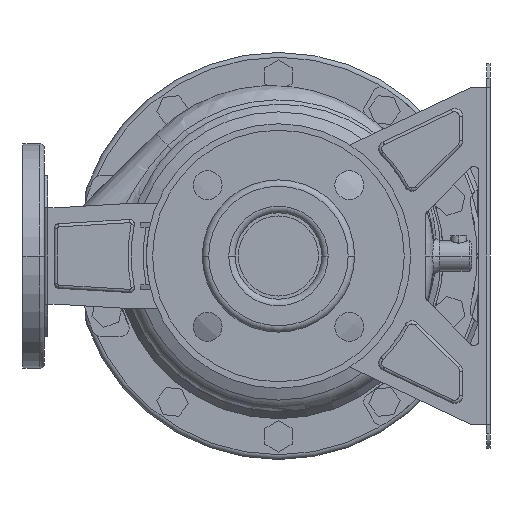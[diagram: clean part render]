
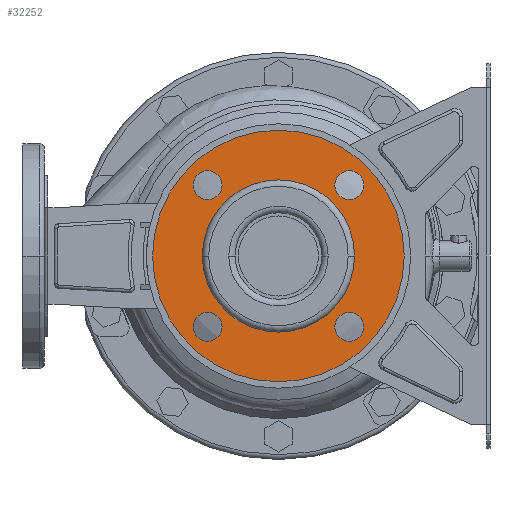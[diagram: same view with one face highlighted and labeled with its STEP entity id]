
A CAD part, front view. The second image highlights one B-rep face of the part: STEP entity #32252.
In plain terms, the highlighted planar face has unit normal (0, -1, 0) as drawn and (-1, 0, 0) by its records, which use the part's own axes.
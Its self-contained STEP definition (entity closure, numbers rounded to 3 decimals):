
#31585=CARTESIAN_POINT('',(12.,0.,0.));
#31586=DIRECTION('',(-1.,0.,0.));
#31587=DIRECTION('',(0.,1.,0.));
#31588=AXIS2_PLACEMENT_3D('',#31585,#31586,#31587);
#31593=CARTESIAN_POINT('',(12.,0.,0.));
#31594=DIRECTION('',(1.,0.,0.));
#31595=DIRECTION('',(0.,1.,0.));
#31596=AXIS2_PLACEMENT_3D('',#31593,#31594,#31595);
#31601=CARTESIAN_POINT('',(12.,-44.194,44.194));
#31602=DIRECTION('',(1.,0.,0.));
#31603=DIRECTION('',(0.,1.,0.));
#31604=AXIS2_PLACEMENT_3D('',#31601,#31602,#31603);
#31609=CARTESIAN_POINT('',(12.,-44.194,44.194));
#31610=DIRECTION('',(1.,0.,0.));
#31611=DIRECTION('',(0.,-1.,0.));
#31612=AXIS2_PLACEMENT_3D('',#31609,#31610,#31611);
#31617=CARTESIAN_POINT('',(12.,-44.194,-44.194));
#31618=DIRECTION('',(1.,0.,0.));
#31619=DIRECTION('',(0.,0.,1.));
#31620=AXIS2_PLACEMENT_3D('',#31617,#31618,#31619);
#31625=CARTESIAN_POINT('',(12.,-44.194,-44.194));
#31626=DIRECTION('',(1.,0.,0.));
#31627=DIRECTION('',(0.,0.,-1.));
#31628=AXIS2_PLACEMENT_3D('',#31625,#31626,#31627);
#31633=CARTESIAN_POINT('',(12.,44.194,-44.194));
#31634=DIRECTION('',(1.,0.,0.));
#31635=DIRECTION('',(0.,-1.,0.));
#31636=AXIS2_PLACEMENT_3D('',#31633,#31634,#31635);
#31641=CARTESIAN_POINT('',(12.,44.194,-44.194));
#31642=DIRECTION('',(1.,0.,0.));
#31643=DIRECTION('',(0.,1.,0.));
#31644=AXIS2_PLACEMENT_3D('',#31641,#31642,#31643);
#31649=CARTESIAN_POINT('',(12.,44.194,44.194));
#31650=DIRECTION('',(1.,0.,0.));
#31651=DIRECTION('',(0.,0.,-1.));
#31652=AXIS2_PLACEMENT_3D('',#31649,#31650,#31651);
#31657=CARTESIAN_POINT('',(12.,44.194,44.194));
#31658=DIRECTION('',(1.,0.,0.));
#31659=DIRECTION('',(0.,0.,1.));
#31660=AXIS2_PLACEMENT_3D('',#31657,#31658,#31659);
#31665=CARTESIAN_POINT('',(12.,0.,0.));
#31666=DIRECTION('',(1.,0.,0.));
#31667=DIRECTION('',(0.,1.,0.));
#31668=AXIS2_PLACEMENT_3D('',#31665,#31666,#31667);
#31687=CARTESIAN_POINT('',(12.,0.,0.));
#31688=DIRECTION('',(-1.,0.,0.));
#31689=DIRECTION('',(0.,1.,0.));
#31690=AXIS2_PLACEMENT_3D('',#31687,#31688,#31689);
#31852=CARTESIAN_POINT('',(12.,78.5,0.));
#31854=VERTEX_POINT('',#31852);
#31855=CARTESIAN_POINT('',(12.,47.5,0.));
#31857=VERTEX_POINT('',#31855);
#31884=CARTESIAN_POINT('',(12.,-78.5,0.));
#31886=VERTEX_POINT('',#31884);
#31887=CARTESIAN_POINT('',(12.,-47.5,0.));
#31889=VERTEX_POINT('',#31887);
#31899=CARTESIAN_POINT('',(12.,-35.194,44.194));
#31900=CARTESIAN_POINT('',(12.,-53.194,44.194));
#31901=VERTEX_POINT('',#31899);
#31902=VERTEX_POINT('',#31900);
#31907=CARTESIAN_POINT('',(12.,-44.194,-35.194));
#31908=CARTESIAN_POINT('',(12.,-44.194,-53.194));
#31909=VERTEX_POINT('',#31907);
#31910=VERTEX_POINT('',#31908);
#31915=CARTESIAN_POINT('',(12.,35.194,-44.194));
#31916=CARTESIAN_POINT('',(12.,53.194,-44.194));
#31917=VERTEX_POINT('',#31915);
#31918=VERTEX_POINT('',#31916);
#31923=CARTESIAN_POINT('',(12.,44.194,35.194));
#31924=CARTESIAN_POINT('',(12.,44.194,53.194));
#31925=VERTEX_POINT('',#31923);
#31926=VERTEX_POINT('',#31924);
#32213=CARTESIAN_POINT('',(12.,0.,0.));
#32214=DIRECTION('',(1.,0.,0.));
#32215=DIRECTION('',(0.,-1.,0.));
#32216=AXIS2_PLACEMENT_3D('',#32213,#32214,#32215);
#32217=PLANE('',#32216);
#32218=ORIENTED_EDGE('',*,*,#32206,.F.);
#32219=ORIENTED_EDGE('',*,*,#32195,.T.);
#32220=EDGE_LOOP('',(#32218,#32219));
#32221=FACE_OUTER_BOUND('',#32220,.F.);
#32223=ORIENTED_EDGE('',*,*,#32222,.F.);
#32225=ORIENTED_EDGE('',*,*,#32224,.T.);
#32226=EDGE_LOOP('',(#32223,#32225));
#32227=FACE_BOUND('',#32226,.F.);
#32229=ORIENTED_EDGE('',*,*,#32228,.F.);
#32231=ORIENTED_EDGE('',*,*,#32230,.F.);
#32232=EDGE_LOOP('',(#32229,#32231));
#32233=FACE_BOUND('',#32232,.F.);
#32235=ORIENTED_EDGE('',*,*,#32234,.F.);
#32237=ORIENTED_EDGE('',*,*,#32236,.F.);
#32238=EDGE_LOOP('',(#32235,#32237));
#32239=FACE_BOUND('',#32238,.F.);
#32241=ORIENTED_EDGE('',*,*,#32240,.F.);
#32243=ORIENTED_EDGE('',*,*,#32242,.F.);
#32244=EDGE_LOOP('',(#32241,#32243));
#32245=FACE_BOUND('',#32244,.F.);
#32247=ORIENTED_EDGE('',*,*,#32246,.F.);
#32249=ORIENTED_EDGE('',*,*,#32248,.F.);
#32250=EDGE_LOOP('',(#32247,#32249));
#32251=FACE_BOUND('',#32250,.F.);
#31589=CIRCLE('',#31588,78.5);
#31597=CIRCLE('',#31596,78.5);
#31605=CIRCLE('',#31604,9.);
#31613=CIRCLE('',#31612,9.);
#31621=CIRCLE('',#31620,9.);
#31629=CIRCLE('',#31628,9.);
#31637=CIRCLE('',#31636,9.);
#31645=CIRCLE('',#31644,9.);
#31653=CIRCLE('',#31652,9.);
#31661=CIRCLE('',#31660,9.);
#31669=CIRCLE('',#31668,47.5);
#31691=CIRCLE('',#31690,47.5);
#32195=EDGE_CURVE('',#31854,#31886,#31597,.T.);
#32206=EDGE_CURVE('',#31854,#31886,#31589,.T.);
#32222=EDGE_CURVE('',#31857,#31889,#31669,.T.);
#32224=EDGE_CURVE('',#31857,#31889,#31691,.T.);
#32228=EDGE_CURVE('',#31901,#31902,#31605,.T.);
#32230=EDGE_CURVE('',#31902,#31901,#31613,.T.);
#32234=EDGE_CURVE('',#31909,#31910,#31621,.T.);
#32236=EDGE_CURVE('',#31910,#31909,#31629,.T.);
#32240=EDGE_CURVE('',#31917,#31918,#31637,.T.);
#32242=EDGE_CURVE('',#31918,#31917,#31645,.T.);
#32246=EDGE_CURVE('',#31925,#31926,#31653,.T.);
#32248=EDGE_CURVE('',#31926,#31925,#31661,.T.);
#32252=ADVANCED_FACE('',(#32221,#32227,#32233,#32239,#32245,#32251),#32217,.F.);
